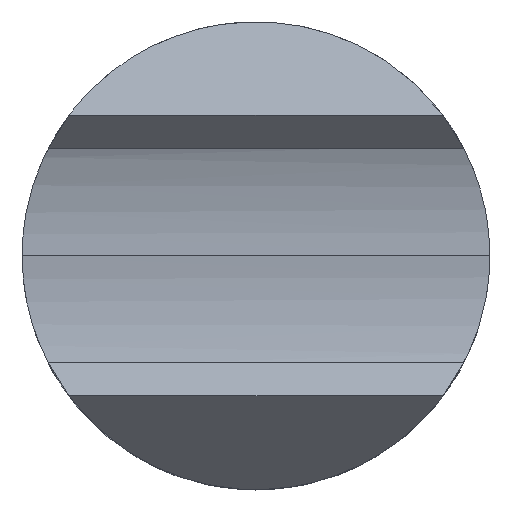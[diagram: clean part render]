
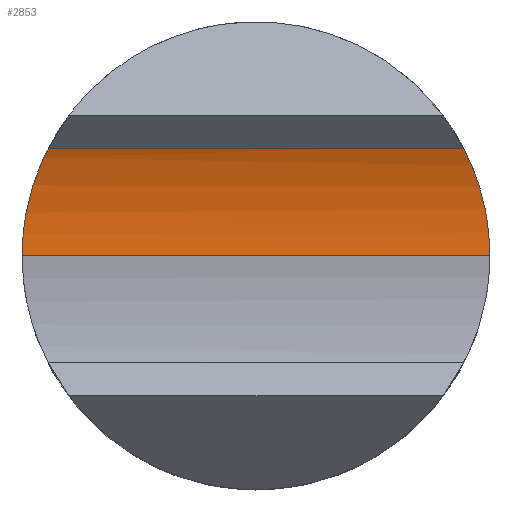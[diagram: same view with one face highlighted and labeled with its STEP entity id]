
A CAD part, top view. The second image highlights one B-rep face of the part: STEP entity #2853.
In plain terms, the highlighted cylindrical face has radius 15.918 mm (diameter 31.837 mm), a partial arc.
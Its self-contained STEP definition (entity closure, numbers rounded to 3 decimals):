
#174 = VERTEX_POINT ( 'NONE', #2897 ) ;
#187 = VECTOR ( 'NONE', #2075, 1000. ) ;
#200 = CARTESIAN_POINT ( 'NONE',  ( 21., -1.477, 50.36 ) ) ;
#214 = CARTESIAN_POINT ( 'NONE',  ( -12.048, -5.792, 35.022 ) ) ;
#244 = CARTESIAN_POINT ( 'NONE',  ( 14.694, -7.708, 35.697 ) ) ;
#255 = CARTESIAN_POINT ( 'NONE',  ( 16.362, -3.702, 34.581 ) ) ;
#300 = FACE_OUTER_BOUND ( 'NONE', #933, .T. ) ;
#363 = CARTESIAN_POINT ( 'NONE',  ( -13.193, 0., 34.51 ) ) ;
#416 = LINE ( 'NONE', #2508, #1602 ) ;
#447 = CARTESIAN_POINT ( 'NONE',  ( -13.193, -0.754, 34.44 ) ) ;
#458 = CARTESIAN_POINT ( 'NONE',  ( -11.081, -7.708, 35.697 ) ) ;
#493 = CARTESIAN_POINT ( 'NONE',  ( 16.694, -1.877, 34.442 ) ) ;
#544 = EDGE_CURVE ( 'NONE', #1350, #1055, #850, .T. ) ;
#564 = ORIENTED_EDGE ( 'NONE', *, *, #2536, .T. ) ;
#567 = ORIENTED_EDGE ( 'NONE', *, *, #2937, .T. ) ;
#598 = AXIS2_PLACEMENT_3D ( 'NONE', #200, #1437, #1954 ) ;
#753 = CARTESIAN_POINT ( 'NONE',  ( 16.792, -0.756, 34.453 ) ) ;
#850 = B_SPLINE_CURVE_WITH_KNOTS ( 'NONE', 3,
 ( #958, #447, #2726, #1213, #2975, #1469, #3239, #1725, #214, #1968, #458, #2228 ),
 .UNSPECIFIED., .F., .F.,
 ( 4, 2, 2, 2, 2, 4 ),
 ( 0., 0.002, 0.003, 0.004, 0.007, 0.009 ),
 .UNSPECIFIED. ) ;
#933 = EDGE_LOOP ( 'NONE', ( #2599, #1961, #567, #564 ) ) ;
#958 = CARTESIAN_POINT ( 'NONE',  ( -13.193, 0., 34.51 ) ) ;
#999 = CARTESIAN_POINT ( 'NONE',  ( 14.306, -8.293, 35.974 ) ) ;
#1005 = CARTESIAN_POINT ( 'NONE',  ( 16.807, 0., 34.51 ) ) ;
#1055 = VERTEX_POINT ( 'NONE', #2532 ) ;
#1213 = CARTESIAN_POINT ( 'NONE',  ( -12.971, -2.601, 34.477 ) ) ;
#1252 = CARTESIAN_POINT ( 'NONE',  ( 15.043, -7.094, 35.45 ) ) ;
#1350 = VERTEX_POINT ( 'NONE', #363 ) ;
#1437 = DIRECTION ( 'NONE',  ( -1., 0., 0. ) ) ;
#1469 = CARTESIAN_POINT ( 'NONE',  ( -12.737, -3.692, 34.592 ) ) ;
#1504 = CARTESIAN_POINT ( 'NONE',  ( 15.648, -5.793, 35.034 ) ) ;
#1602 = VECTOR ( 'NONE', #1788, 1000. ) ;
#1725 = CARTESIAN_POINT ( 'NONE',  ( -12.313, -5.116, 34.846 ) ) ;
#1760 = CARTESIAN_POINT ( 'NONE',  ( 16.035, -4.763, 34.78 ) ) ;
#1788 = DIRECTION ( 'NONE',  ( -1., 0., 0. ) ) ;
#1819 = CARTESIAN_POINT ( 'NONE',  ( 21., -8.293, 35.974 ) ) ;
#1954 = DIRECTION ( 'NONE',  ( 0., 0., 1. ) ) ;
#1961 = ORIENTED_EDGE ( 'NONE', *, *, #2067, .F. ) ;
#1968 = CARTESIAN_POINT ( 'NONE',  ( -11.433, -7.086, 35.447 ) ) ;
#1991 = CARTESIAN_POINT ( 'NONE',  ( 14.306, -8.293, 35.974 ) ) ;
#2001 = CARTESIAN_POINT ( 'NONE',  ( 16.526, -2.981, 34.495 ) ) ;
#2067 = EDGE_CURVE ( 'NONE', #2464, #1055, #2863, .T. ) ;
#2075 = DIRECTION ( 'NONE',  ( -1., 0., 0. ) ) ;
#2228 = CARTESIAN_POINT ( 'NONE',  ( -10.692, -8.293, 35.974 ) ) ;
#2234 = CYLINDRICAL_SURFACE ( 'NONE', #598, 15.919 ) ;
#2261 = CARTESIAN_POINT ( 'NONE',  ( 16.736, -1.506, 34.437 ) ) ;
#2464 = VERTEX_POINT ( 'NONE', #999 ) ;
#2508 = CARTESIAN_POINT ( 'NONE',  ( 21., 0., 34.51 ) ) ;
#2515 = CARTESIAN_POINT ( 'NONE',  ( 16.807, -0.377, 34.475 ) ) ;
#2532 = CARTESIAN_POINT ( 'NONE',  ( -10.692, -8.293, 35.974 ) ) ;
#2536 = EDGE_CURVE ( 'NONE', #174, #1350, #416, .T. ) ;
#2599 = ORIENTED_EDGE ( 'NONE', *, *, #544, .T. ) ;
#2716 = B_SPLINE_CURVE_WITH_KNOTS ( 'NONE', 3,
 ( #1991, #244, #1252, #3014, #1504, #3275, #1760, #255, #2001, #493, #2261, #753, #2515, #1005 ),
 .UNSPECIFIED., .F., .F.,
 ( 4, 2, 2, 2, 2, 2, 4 ),
 ( 0., 0.002, 0.003, 0.004, 0.007, 0.008, 0.009 ),
 .UNSPECIFIED. ) ;
#2726 = CARTESIAN_POINT ( 'NONE',  ( -13.137, -1.498, 34.424 ) ) ;
#2853 = ADVANCED_FACE ( 'NONE', ( #300 ), #2234, .F. ) ;
#2863 = LINE ( 'NONE', #1819, #187 ) ;
#2897 = CARTESIAN_POINT ( 'NONE',  ( 16.807, 0., 34.51 ) ) ;
#2937 = EDGE_CURVE ( 'NONE', #2464, #174, #2716, .T. ) ;
#2975 = CARTESIAN_POINT ( 'NONE',  ( -12.902, -2.966, 34.507 ) ) ;
#3014 = CARTESIAN_POINT ( 'NONE',  ( 15.504, -6.124, 35.131 ) ) ;
#3239 = CARTESIAN_POINT ( 'NONE',  ( -12.64, -4.055, 34.647 ) ) ;
#3275 = CARTESIAN_POINT ( 'NONE',  ( 15.913, -5.114, 34.858 ) ) ;
